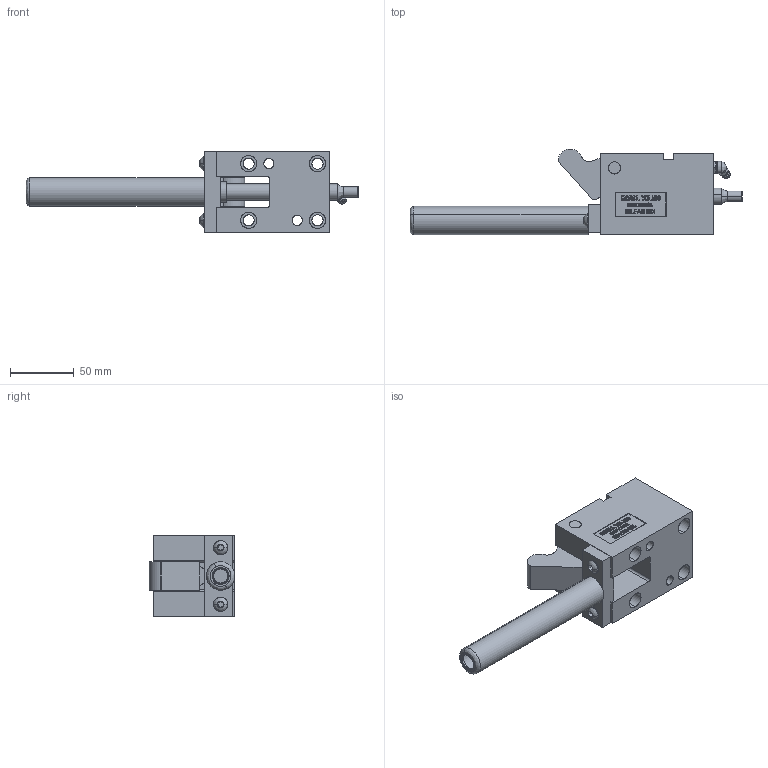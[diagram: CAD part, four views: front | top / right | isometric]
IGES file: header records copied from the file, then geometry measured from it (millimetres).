
Start section: SolidWorks IGES file using analytic representation for surfaces
Global section: file name: Y:\JIM'S INCH CAM UNITS\TOL50045\OPEN\TOL50045-O.IGS; native system: SolidWorks 2006 by SolidWorks Corporation; preprocessor: SolidWorks 2006 by SolidWorks Corporation; author: Jim; date: 090211.143441; units: inch
Bounding box: 260.22 x 67.08 x 63.5 mm (x, y, z)
Surface area: 87103.3 mm2 (no closed solid volume)
Topology: 0 solids, 0 shells, 582 faces, 7257 edges, 7253 vertices
Faces by surface type: bspline 458, revolution 124
